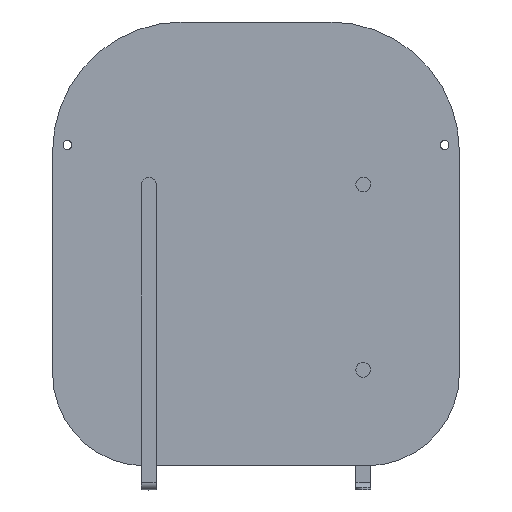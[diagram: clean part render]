
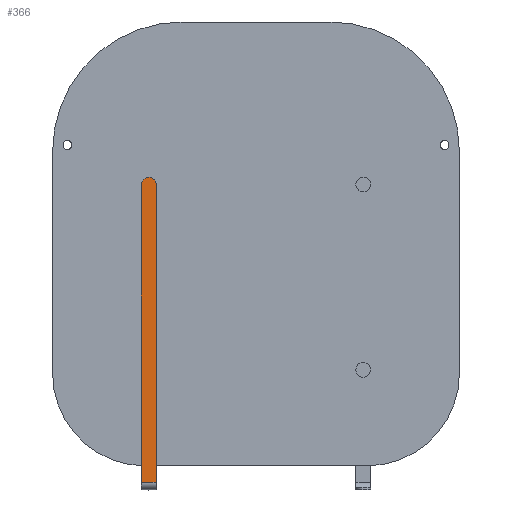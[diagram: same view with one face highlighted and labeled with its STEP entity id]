
A CAD part, top view. The second image highlights one B-rep face of the part: STEP entity #366.
In plain terms, the highlighted planar face has unit normal (0, 0, 1) as drawn and (0, 0, -1) by its records, which use the part's own axes.
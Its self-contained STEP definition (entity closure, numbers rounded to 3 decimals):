
#139 = PLANE ( 'NONE',  #2444 ) ;
#165 = ORIENTED_EDGE ( 'NONE', *, *, #3561, .F. ) ;
#210 = EDGE_LOOP ( 'NONE', ( #4638, #2774, #165, #555 ) ) ;
#366 = ADVANCED_FACE ( 'NONE', ( #2023 ), #139, .F. ) ;
#375 = VECTOR ( 'NONE', #808, 1000. ) ;
#410 = DIRECTION ( 'NONE',  ( 0., 0., 1. ) ) ;
#555 = ORIENTED_EDGE ( 'NONE', *, *, #2145, .F. ) ;
#567 = CARTESIAN_POINT ( 'NONE',  ( 20., 825., -5. ) ) ;
#600 = LINE ( 'NONE', #1359, #1461 ) ;
#649 = DIRECTION ( 'NONE',  ( 1., 0., 0. ) ) ;
#808 = DIRECTION ( 'NONE',  ( -1., 0., 0. ) ) ;
#1002 = DIRECTION ( 'NONE',  ( 0., 1., 0. ) ) ;
#1167 = CARTESIAN_POINT ( 'NONE',  ( 0., 825., -5. ) ) ;
#1359 = CARTESIAN_POINT ( 'NONE',  ( 0., 0., -5. ) ) ;
#1461 = VECTOR ( 'NONE', #2669, 1000. ) ;
#1691 = EDGE_CURVE ( 'NONE', #3059, #4808, #600, .T. ) ;
#2023 = FACE_OUTER_BOUND ( 'NONE', #210, .T. ) ;
#2138 = CIRCLE ( 'NONE', #3859, 20. ) ;
#2145 = EDGE_CURVE ( 'NONE', #4190, #3126, #2206, .T. ) ;
#2206 = LINE ( 'NONE', #3828, #3714 ) ;
#2444 = AXIS2_PLACEMENT_3D ( 'NONE', #3665, #410, #4523 ) ;
#2498 = LINE ( 'NONE', #3227, #375 ) ;
#2636 = DIRECTION ( 'NONE',  ( 0., 0., 1. ) ) ;
#2669 = DIRECTION ( 'NONE',  ( 0., -1., 0. ) ) ;
#2774 = ORIENTED_EDGE ( 'NONE', *, *, #1691, .F. ) ;
#3059 = VERTEX_POINT ( 'NONE', #1167 ) ;
#3126 = VERTEX_POINT ( 'NONE', #3279 ) ;
#3227 = CARTESIAN_POINT ( 'NONE',  ( 40., 20., -5. ) ) ;
#3279 = CARTESIAN_POINT ( 'NONE',  ( 40., 825., -5. ) ) ;
#3561 = EDGE_CURVE ( 'NONE', #3126, #3059, #2138, .T. ) ;
#3665 = CARTESIAN_POINT ( 'NONE',  ( 20., 825., -5. ) ) ;
#3714 = VECTOR ( 'NONE', #1002, 1000. ) ;
#3828 = CARTESIAN_POINT ( 'NONE',  ( 40., 0., -5. ) ) ;
#3859 = AXIS2_PLACEMENT_3D ( 'NONE', #567, #2636, #649 ) ;
#4190 = VERTEX_POINT ( 'NONE', #4800 ) ;
#4523 = DIRECTION ( 'NONE',  ( 1., 0., 0. ) ) ;
#4638 = ORIENTED_EDGE ( 'NONE', *, *, #5027, .T. ) ;
#4724 = CARTESIAN_POINT ( 'NONE',  ( 0., 20., -5. ) ) ;
#4800 = CARTESIAN_POINT ( 'NONE',  ( 40., 20., -5. ) ) ;
#4808 = VERTEX_POINT ( 'NONE', #4724 ) ;
#5027 = EDGE_CURVE ( 'NONE', #4190, #4808, #2498, .T. ) ;
